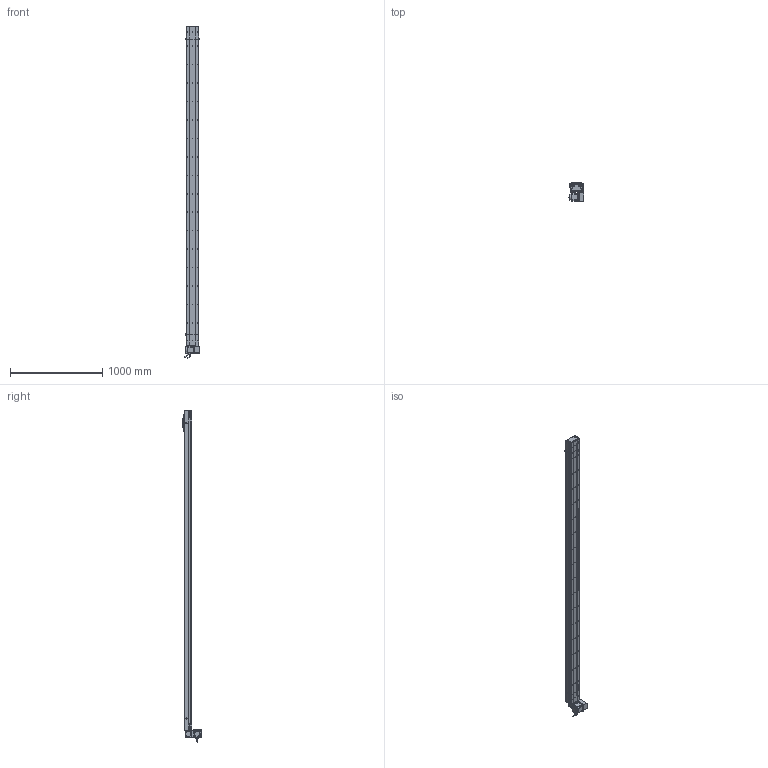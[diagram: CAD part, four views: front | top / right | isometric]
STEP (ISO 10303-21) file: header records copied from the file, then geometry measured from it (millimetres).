
FILE_DESCRIPTION (( 'STEP AP214' ), '1' );
FILE_NAME ('D14 CBH S3200 LU.STEP', '2010-06-30T07:50:44', ( 'Conseil Régional Haute-Normandie' ), ( 'Conseil Régional Haute-Normandie' ), 'SwSTEP 2.0', 'SolidWorks 2010', '' );
FILE_SCHEMA (( 'AUTOMOTIVE_DESIGN' ));
Length unit declared in the file: millimetre
Products named in the file (28): chariot D14; vis CHC M7; Head D14 CBH LU; charriot inférieur D14; plaque de maintient CBH D14; chariot supérieur D14; GMB 90 70 310; vis CHC M5; couvercle Head D14 CBH; Vis CHC M8; Head D14 CBH; corps Head D14 CBH; plaque de bout Head D14 CBH; plaque fermeture Head D14 CBH; avant GMB 90 70 310; Support moteur Head D14 CBH; corps GMB 90 70 310; Conecteur_Default; Conecteur2_Default; codeur GMB 90 70 310; plaque de bout tail CBH d14; Tail CBH D14 B; corps tail  CBH d14 B; couvercle tail CBH D14; couvercle CBH S3200; corps CBH S3200; Course CBH S3200; D14 CBH S3200 LU
Assembly tree (51 placements, depth 4):
  D14 CBH S3200 LU
    Tail CBH D14 B
      Vis CHC M8  x2
      corps tail  CBH d14 B
      vis CHC M7  x4
      plaque de maintient CBH D14
      plaque de bout tail CBH d14
      couvercle tail CBH D14
    chariot D14
      vis CHC M7  x8
      vis CHC M5  x4
      charriot inférieur D14
      chariot supérieur D14
    Head D14 CBH LU
      plaque fermeture Head D14 CBH  x3
      Head D14 CBH
        vis CHC M7  x4
        plaque de bout Head D14 CBH
        Vis CHC M8  x2
        plaque de maintient CBH D14
        couvercle Head D14 CBH
        corps Head D14 CBH
      GMB 90 70 310
        corps GMB 90 70 310
        avant GMB 90 70 310
        Conecteur_Default
        codeur GMB 90 70 310
        Conecteur2_Default
      Support moteur Head D14 CBH
    Course CBH S3200
      couvercle CBH S3200
      corps CBH S3200
Bounding box: 171.5 x 195.75 x 3595.95 mm (x, y, z)
Volume: 9490250.5 mm3; surface area: 3308977.7 mm2
Topology: 51 solids, 51 shells, 2528 faces, 6582 edges, 4322 vertices
Faces by surface type: plane 1371, bspline 538, cylinder 506, torus 61, cone 48, sphere 4
Entity records: 111921 total; most frequent: CARTESIAN_POINT 58610, ORIENTED_EDGE 11460, DIRECTION 8811, EDGE_CURVE 5730, VERTEX_POINT 3786, LINE 3749, VECTOR 3749, AXIS2_PLACEMENT_3D 2531
